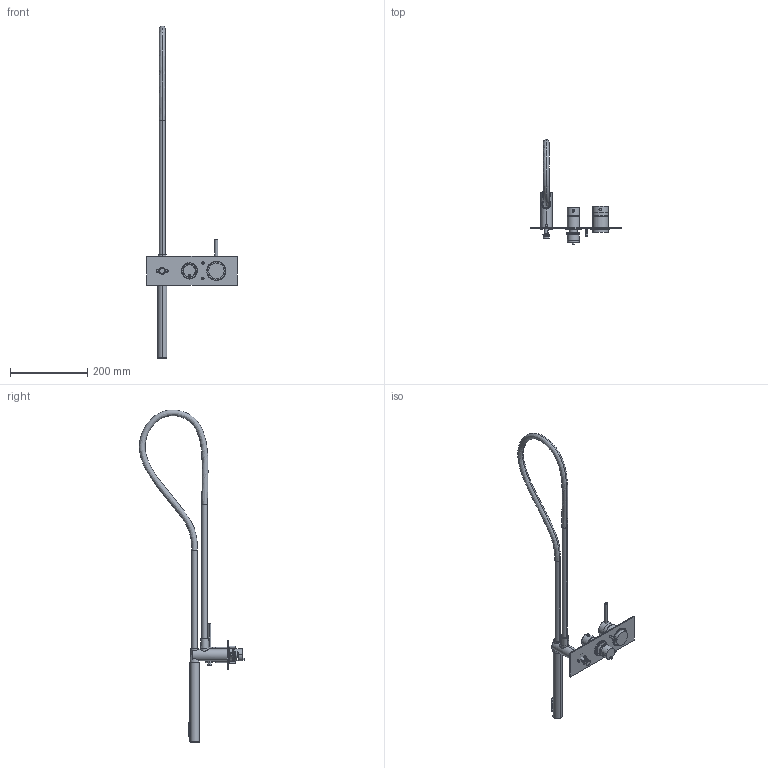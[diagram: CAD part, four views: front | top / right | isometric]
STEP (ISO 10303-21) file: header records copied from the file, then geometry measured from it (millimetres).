
FILE_DESCRIPTION((''),'2;1');
FILE_NAME('69529V221_SW0001','2023-06-05T15:01:35',('volponeff'),(''),'CREO PARAMETRIC BY PTC INC, 2022014','CREO PARAMETRIC BY PTC INC, 2022014','');
FILE_SCHEMA(('CONFIG_CONTROL_DESIGN'));
Length unit declared in the file: millimetre
Products named in the file (1): 69529V221_SW0001
Bounding box: 235 x 272.38 x 859.65 mm (x, y, z)
Surface area: 170288.6 mm2 (no closed solid volume)
Topology: 0 solids, 73 shells, 343 faces, 900 edges, 614 vertices
Faces by surface type: cylinder 131, torus 95, plane 89, cone 22, bspline 4, sphere 2
Entity records: 11864 total; most frequent: CARTESIAN_POINT 3280, DIRECTION 2093, ORIENTED_EDGE 1470, AXIS2_PLACEMENT_3D 915, EDGE_CURVE 898, VERTEX_POINT 614, CIRCLE 576, EDGE_LOOP 343
